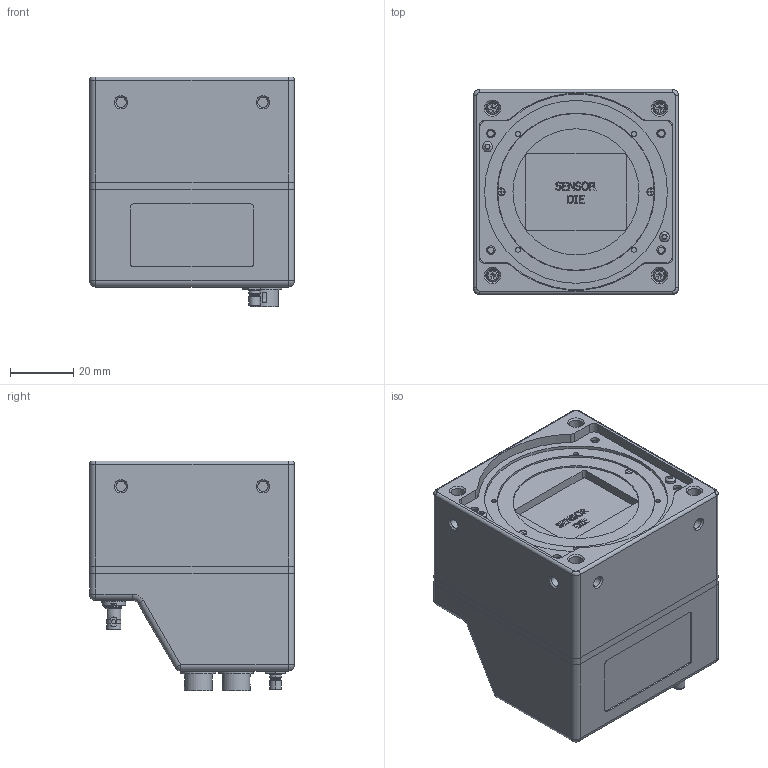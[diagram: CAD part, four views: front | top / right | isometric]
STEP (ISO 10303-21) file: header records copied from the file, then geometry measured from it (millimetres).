
FILE_DESCRIPTION(/* description */ (''),/* implementation_level */ '2;1');
FILE_NAME(/* name */ 'C:\Users\jobserver\Workspace\Designs\Storage\2023\08\111077.stp',/* time_stamp */ '2024-06-13T09:45:47+02:00',/* author */ (''),/* organization */ (''),/* preprocessor_version */ 'ST-DEVELOPER v18.1',/* originating_system */ 'Autodesk Inventor 2022',/* authorisation */ '');
FILE_SCHEMA (('CONFIG_CONTROL_DESIGN'));
Products named in the file (1): 111077
Bounding box: 65 x 65 x 72.9 mm (x, y, z)
Volume: 246260.9 mm3; surface area: 81591.2 mm2
Topology: 7 solids, 120 shells, 2403 faces, 6520 edges, 4401 vertices
Faces by surface type: plane 1261, cylinder 605, bspline 337, cone 152, torus 42, sphere 6
Full cylindrical faces by diameter (mm): 0.45 x4, 0.46 x4, 0.5 x10, 0.51 x4, 0.61 x8, 0.8 x18, 1 x2, 1.1 x10, 1.25 x4, 1.4 x8, 1.567 x8, 1.6 x2, 1.68 x4, 2 x2, 2.013 x4, 2.3 x2, 2.5 x12, 2.7 x12, 2.8 x4, 3 x4, 3.05 x4, 3.2 x2, 3.242 x8, 3.59 x4, 3.6 x8, 3.8 x8, 3.962 x1, 4.1 x4, 4.2 x4, 4.5 x4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
Entity records: 127028 total; most frequent: CARTESIAN_POINT 65564, ORIENTED_EDGE 12541, DIRECTION 11074, EDGE_CURVE 6505, VERTEX_POINT 4404, LINE 3848, VECTOR 3848, AXIS2_PLACEMENT_3D 3613
